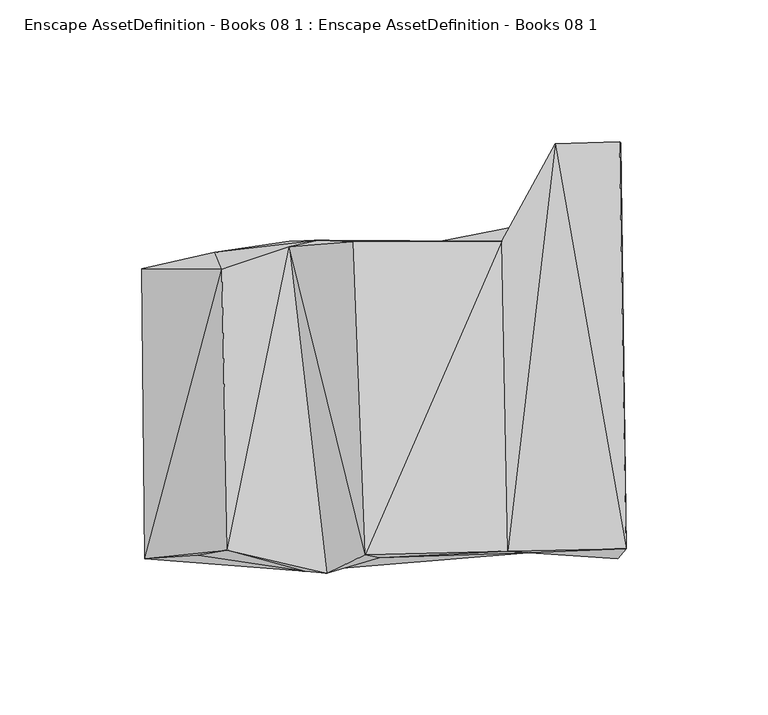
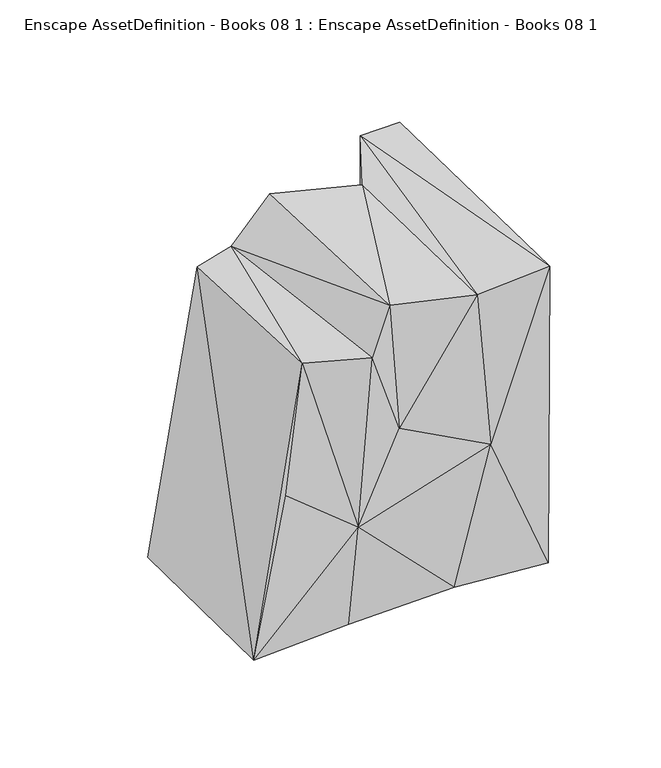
"""IFC4 building model written with IfcOpenShell, lengths in millimetres: geographic element geometry, Enscape AssetDefinition - Books 08 1 : Enscape AssetDefinition - Books 08 1."""

from ifc_helpers import new_model, si_unit, origin, place, context, project, spatial, faceted_brep, source, transform, mapped, element, save


def enscape_assetdefinition_books_08_1_enscape_assetdefinition_19575203(model_context):
    return source(origin(), model_context, "Body", "Brep", [
        faceted_brep([(-35.2115929, 39.1250923, 0.0), (-30.5262934, -69.3819001, 0.0), (-61.5261681, 35.2264568, 0.0), (-29.6554156, -77.138558, 62.4069497), (30.091349, -68.0721104, 0.0), (-86.1148387, -72.7098659, 0.0), (16.1305554, 38.8060696, 0.0), (-25.0939578, 39.4976214, 99.4881094), (55.016879, 46.3665575, 0.0), (39.6918096, 39.1795859, 172.3525375), (-12.6361474, 38.9447771, 185.4295731), (-59.133485, 29.3532349, 163.8607383), (-35.3156254, 37.2069851, 163.2246673), (-8.493782, -71.367383, 184.1931045), (41.8130271, -70.0308457, 172.1375287), (58.52516, 73.4321252, 174.4856387), (-57.051897, -69.707863, 165.5460149), (-22.0364742, -77.7617469, 161.5155935), (-3.4993626, -72.3254457, 109.694913), (49.0693487, -70.6490874, 80.595322), (83.4348351, -69.2441836, 174.2151678), (58.3626702, 73.4985098, 0.0), (81.1332986, 74.1583556, 174.2795557), (81.5920234, 73.9354342, 0.0), (80.4863349, -72.7059022, 0.0), (-67.4865767, -71.4832991, 91.0825059), (-87.1957541, 29.4998642, 0.0)], [[[0, 1, 2]], [[3, 1, 4]], [[2, 1, 5]], [[3, 5, 1]], [[6, 4, 1]], [[0, 6, 1]], [[7, 0, 2]], [[7, 6, 0]], [[6, 8, 4]], [[9, 6, 7]], [[8, 6, 9]], [[7, 10, 9]], [[11, 7, 2]], [[11, 12, 7]], [[12, 10, 7]], [[10, 13, 9]], [[9, 14, 15]], [[9, 13, 14]], [[9, 15, 8]], [[10, 12, 13]], [[12, 16, 17]], [[12, 17, 13]], [[11, 16, 12]], [[13, 17, 18]], [[14, 13, 18]], [[14, 18, 19]], [[20, 14, 19]], [[20, 15, 14]], [[15, 21, 8]], [[22, 15, 20]], [[15, 22, 21]], [[23, 20, 24]], [[22, 20, 23]], [[20, 19, 24]], [[22, 23, 21]], [[21, 24, 8]], [[21, 23, 24]], [[8, 24, 4]], [[4, 24, 19]], [[19, 18, 3]], [[19, 3, 4]], [[18, 17, 3]], [[25, 5, 3]], [[16, 25, 3]], [[16, 3, 17]], [[16, 5, 25]], [[5, 16, 11]], [[26, 5, 11]], [[5, 26, 2]], [[11, 2, 26]]]),
    ])


if __name__ == "__main__":
    model = new_model("IFC4")
    model_context = context("Model", 3, world=origin())
    ifc_project = project(units=[si_unit("LENGTHUNIT", "METRE", prefix="MILLI")], contexts=[model_context])
    site = spatial("IfcSite", under=ifc_project)
    building = spatial("IfcBuilding", under=site)
    placement = place(None, origin())
    enscape_assetdefinition_books_08_1_enscape_assetdefinition_shape = enscape_assetdefinition_books_08_1_enscape_assetdefinition_19575203(model_context)
    element("IfcGeographicElement", 1, ObjectType="Enscape AssetDefinition - Books 08 1 : Enscape AssetDefinition - Books 08 1", at=placement, inside=building, context=model_context, shape_type="MappedRepresentation", body=[
        mapped(enscape_assetdefinition_books_08_1_enscape_assetdefinition_shape, transform((0.0, 0.0, 0.0), x_axis=(1.0, 0.0, 0.0), y_axis=(0.0, 1.0, 0.0), z_axis=(0.0, 0.0, 1.0))),
    ])
    save(model, "model.ifc")
